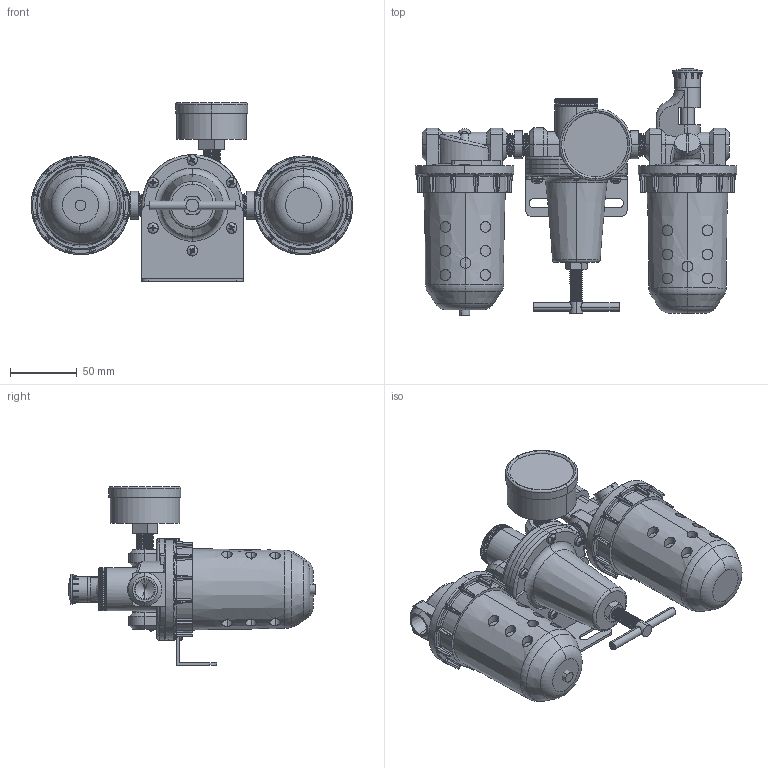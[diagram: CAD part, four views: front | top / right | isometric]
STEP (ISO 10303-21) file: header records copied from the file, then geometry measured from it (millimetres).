
FILE_DESCRIPTION (( 'STEP AP203' ), '1' );
FILE_NAME ('C628-03#YB#.STEP', '2016-02-16T03:54:06', ( '' ), ( '' ), 'SwSTEP 2.0', 'SolidWorks 2014', '' );
FILE_SCHEMA (( 'CONFIG_CONTROL_DESIGN' ));
Length unit declared in the file: millimetre
Products named in the file (24): L606-W-06-5; 50-P-AD=1-4PT-1; R119-02-1; R119-02-5; R119-03; R119-02-4; L606-W-06-4; KW15Y57; R119-02-7; F602-03#YB#; F602-02-2; L606-W-04-1; ISO 7045 - M4 x 16; 50-P-AD=1-4PT.SLDPRT; L606-W-06-3; C628-03#YB#; 50-P-AD=1-4PT-2; R119-02-6; R119-02-2
Assembly tree (30 placements, depth 4):
  C628-03#YB#
    F602-03#YB#
      (unnamed)
      F602-02-2
      L606-W-06-5
    R119-03
      R119-02-1
      R119-02-2
      (unnamed)
      R119-02-4
      ISO 7045 - M4 x 16  x6
      R119-02-5
      R119-02-6
      R119-02-7
      KW15Y57
      50-P-AD=1-4PT.SLDPRT
        50-P-AD=1-4PT-1
        50-P-AD=1-4PT-2
    (unnamed)
      L606-W-06-4
      L606-W-06-3  x2
      L606-W-04-1
      (unnamed)
    (unnamed)  x2
Bounding box: 241 x 184.5 x 134 mm (x, y, z)
Volume: 989934.3 mm3; surface area: 170397.3 mm2
Topology: 26 solids, 26 shells, 1698 faces, 4195 edges, 2524 vertices
Faces by surface type: plane 543, cylinder 412, cone 357, bspline 215, torus 99, sphere 72
Entity records: 65054 total; most frequent: CARTESIAN_POINT 30779, ORIENTED_EDGE 7134, DIRECTION 5974, EDGE_CURVE 3567, AXIS2_PLACEMENT_3D 2445, VERTEX_POINT 2175, EDGE_LOOP 1544, ADVANCED_FACE 1474
